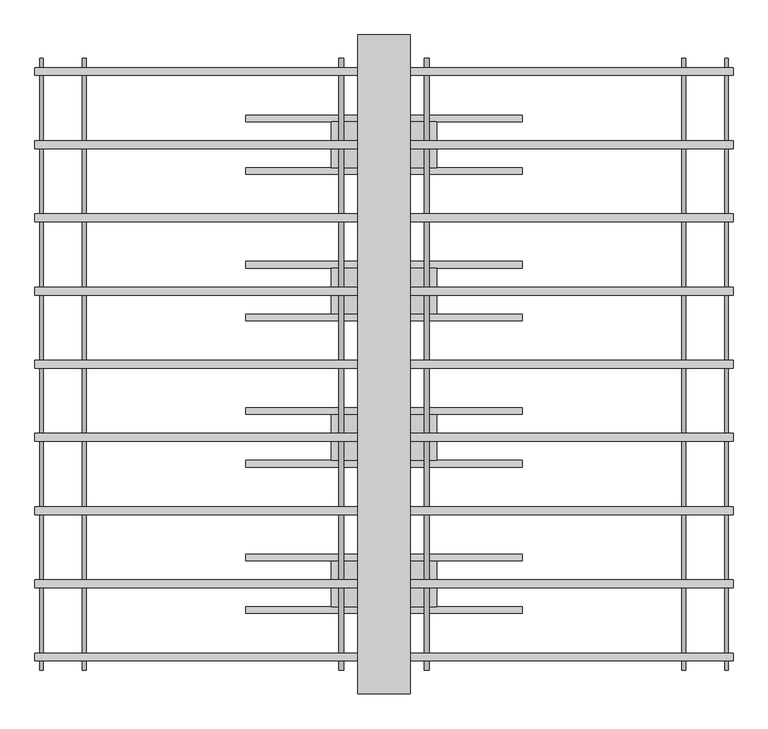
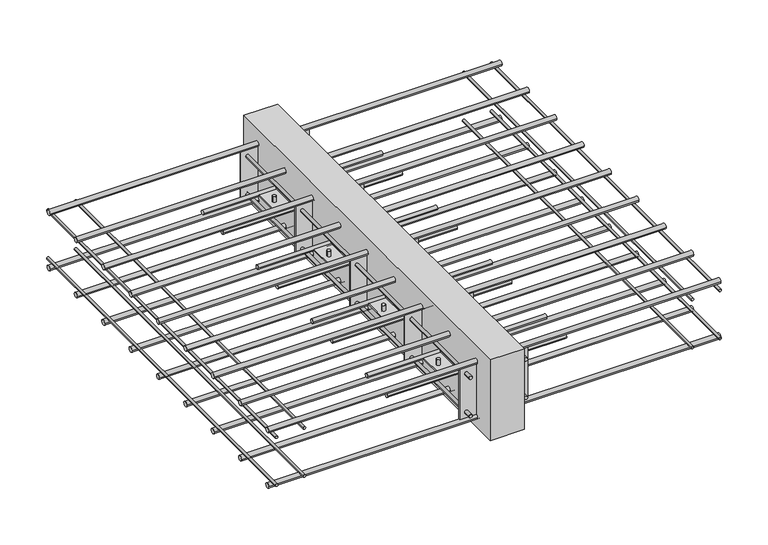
"""IFC4 building model written with IfcOpenShell, lengths in millimetres: proxy geometry, ACINOXplus_Typenreihe_M : MF+ S4."""

from ifc_helpers import new_model, si_unit, point, frame, frame_2d, origin, place, context, project, spatial, polyline, circle_curve, trimmed, segment, composite_curve, outline, extrude, source, transform, mapped, element, save
from ifc_brep_helpers import plane_surface, cylinder_surface, advanced_brep


def generic_models_8bc4e240(model_context):
    return source(origin(), model_context, "Body", "SolidModel", [
        extrude(outline(composite_curve([segment(trimmed(circle_curve(frame_2d((-373.3333333, -104.5)), 5.0), [point((-378.3333333, -104.5))], [point((-368.3333333, -104.5))], False, "CARTESIAN"), True, "CONTINUOUS"), segment(trimmed(circle_curve(frame_2d((-373.3333333, -104.5)), 5.0), [point((-368.3333333, -104.5))], [point((-378.3333333, -104.5))], False, "CARTESIAN"), True, "CONTINUOUS")], self_intersect=False)), frame((-210.0, 0.0, 0.0), z_axis=(1.0, 0.0, 0.0), x_axis=(0.0, 1.0, 0.0)), (0.0, 0.0, 1.0), 420.0),
        extrude(outline(composite_curve([segment(trimmed(circle_curve(frame_2d((-293.3333333, -104.5)), 5.0), [point((-298.3333333, -104.5))], [point((-288.3333333, -104.5))], False, "CARTESIAN"), True, "CONTINUOUS"), segment(trimmed(circle_curve(frame_2d((-293.3333333, -104.5)), 5.0), [point((-288.3333333, -104.5))], [point((-298.3333333, -104.5))], False, "CARTESIAN"), True, "CONTINUOUS")], self_intersect=False)), frame((-210.0, 0.0, 0.0), z_axis=(1.0, 0.0, 0.0), x_axis=(0.0, 1.0, 0.0)), (0.0, 0.0, 1.0), 420.0),
        advanced_brep(
        [(-69.0, -333.3333333, -89.5), (-61.0, -333.3333333, -89.5), (61.0, -333.3333333, -89.5), (69.0, -333.3333333, -89.5), (-69.0, -333.3333333, -119.5), (-61.0, -333.3333333, -119.5), (61.0, -333.3333333, -119.5), (69.0, -333.3333333, -119.5), (-69.0, -333.3333333, -103.0), (-61.0, -333.3333333, -103.0), (-61.0, -333.3333333, -106.0), (-69.0, -333.3333333, -106.0), (61.0, -333.3333333, -103.0), (69.0, -333.3333333, -103.0), (69.0, -333.3333333, -106.0), (61.0, -333.3333333, -106.0), (80.0, -298.3333333, -103.0), (-80.0, -298.3333333, -103.0), (-80.0, -368.3333333, -103.0), (80.0, -368.3333333, -103.0), (80.0, -298.3333333, -106.0), (80.0, -368.3333333, -106.0), (-80.0, -368.3333333, -106.0), (-80.0, -298.3333333, -106.0)],
        [
            (0, 1, circle_curve(frame((-65.0, -333.3333333, -89.5), z_axis=(0.0, 0.0, 1.0), x_axis=(1.0, 0.0, 0.0)), 4.0)),
            (1, 0, circle_curve(frame((-65.0, -333.3333333, -89.5), z_axis=(0.0, 0.0, 1.0), x_axis=(1.0, 0.0, 0.0)), 4.0)),
            (2, 3, circle_curve(frame((65.0, -333.3333333, -89.5), z_axis=(0.0, 0.0, 1.0), x_axis=(1.0, 0.0, 0.0)), 4.0)),
            (3, 2, circle_curve(frame((65.0, -333.3333333, -89.5), z_axis=(0.0, 0.0, 1.0), x_axis=(1.0, 0.0, 0.0)), 4.0)),
            (4, 5, circle_curve(frame((-65.0, -333.3333333, -119.5), z_axis=(0.0, 0.0, -1.0), x_axis=(1.0, 0.0, 0.0)), 4.0)),
            (5, 4, circle_curve(frame((-65.0, -333.3333333, -119.5), z_axis=(0.0, 0.0, -1.0), x_axis=(1.0, 0.0, 0.0)), 4.0)),
            (6, 7, circle_curve(frame((65.0, -333.3333333, -119.5), z_axis=(0.0, 0.0, -1.0), x_axis=(1.0, 0.0, 0.0)), 4.0)),
            (7, 6, circle_curve(frame((65.0, -333.3333333, -119.5), z_axis=(0.0, 0.0, -1.0), x_axis=(1.0, 0.0, 0.0)), 4.0)),
            (0, 8),
            (8, 9, circle_curve(frame((-65.0, -333.3333333, -103.0), z_axis=(0.0, 0.0, 1.0), x_axis=(1.0, 0.0, 0.0)), 4.0)),
            (9, 1),
            (5, 10),
            (10, 11, circle_curve(frame((-65.0, -333.3333333, -106.0), z_axis=(0.0, 0.0, -1.0), x_axis=(1.0, 0.0, 0.0)), 4.0)),
            (11, 4),
            (9, 8, circle_curve(frame((-65.0, -333.3333333, -103.0), z_axis=(0.0, 0.0, 1.0), x_axis=(1.0, 0.0, 0.0)), 4.0)),
            (11, 10, circle_curve(frame((-65.0, -333.3333333, -106.0), z_axis=(0.0, 0.0, -1.0), x_axis=(1.0, 0.0, 0.0)), 4.0)),
            (2, 12),
            (12, 13, circle_curve(frame((65.0, -333.3333333, -103.0), z_axis=(0.0, 0.0, 1.0), x_axis=(1.0, 0.0, 0.0)), 4.0)),
            (13, 3),
            (7, 14),
            (14, 15, circle_curve(frame((65.0, -333.3333333, -106.0), z_axis=(0.0, 0.0, -1.0), x_axis=(1.0, 0.0, 0.0)), 4.0)),
            (15, 6),
            (13, 12, circle_curve(frame((65.0, -333.3333333, -103.0), z_axis=(0.0, 0.0, 1.0), x_axis=(1.0, 0.0, 0.0)), 4.0)),
            (15, 14, circle_curve(frame((65.0, -333.3333333, -106.0), z_axis=(0.0, 0.0, -1.0), x_axis=(1.0, 0.0, 0.0)), 4.0)),
            (16, 17),
            (17, 18),
            (18, 19),
            (19, 16),
            (20, 21),
            (21, 22),
            (22, 23),
            (23, 20),
            (16, 20),
            (23, 17),
            (22, 18),
            (21, 19),
        ],
        [
            plane_surface(frame((-61.0, -333.3333333, -89.5), z_axis=(0.0, 0.0, 1.0), x_axis=(0.0, 1.0, 0.0))),
            plane_surface(frame((-61.0, -333.3333333, -119.5), z_axis=(0.0, 0.0, -1.0), x_axis=(0.0, -1.0, 0.0))),
            cylinder_surface(frame((-65.0, -333.3333333, -119.5), z_axis=(0.0, 0.0, 1.0), x_axis=(1.0, 0.0, 0.0)), 4.0),
            cylinder_surface(frame((65.0, -333.3333333, -104.5), z_axis=(0.0, 0.0, 1.0), x_axis=(1.0, 0.0, 0.0)), 4.0),
            plane_surface(frame((-80.0, -298.3333333, -103.0), z_axis=(0.0, 0.0, 1.0), x_axis=(-1.0, 0.0, 0.0))),
            plane_surface(frame((-80.0, -298.3333333, -106.0), z_axis=(0.0, 0.0, -1.0), x_axis=(1.0, 0.0, 0.0))),
            plane_surface(frame((80.0, -298.3333333, -103.0), z_axis=(0.0, 1.0, 0.0), x_axis=(0.0, 0.0, -1.0))),
            plane_surface(frame((-80.0, -298.3333333, -103.0), z_axis=(-1.0, 0.0, 0.0), x_axis=(0.0, 0.0, -1.0))),
            plane_surface(frame((-80.0, -368.3333333, -103.0), z_axis=(0.0, -1.0, 0.0), x_axis=(0.0, 0.0, -1.0))),
            plane_surface(frame((80.0, -368.3333333, -103.0), z_axis=(1.0, 0.0, 0.0), x_axis=(0.0, 0.0, -1.0))),
        ],
        [
            (0, [[1, 2]]),
            (0, [[3, 4]]),
            (1, [[5, 6]]),
            (1, [[7, 8]]),
            (2, [[-1, 9, 10, 11]]),
            (2, [[-6, 12, 13, 14]]),
            (2, [[-2, -11, 15, -9]]),
            (2, [[-5, -14, 16, -12]]),
            (3, [[-3, 17, 18, 19]]),
            (3, [[-8, 20, 21, 22]]),
            (3, [[-4, -19, 23, -17]]),
            (3, [[-7, -22, 24, -20]]),
            (4, [[25, 26, 27, 28], [-10, -15], [-18, -23]]),
            (5, [[29, 30, 31, 32], [-13, -16], [-21, -24]]),
            (6, [[-25, 33, -32, 34]]),
            (7, [[-26, -34, -31, 35]]),
            (8, [[-27, -35, -30, 36]]),
            (9, [[-28, -36, -29, -33]]),
        ],
    ),
        extrude(outline(composite_curve([segment(trimmed(circle_curve(frame_2d((293.3333333, -104.5)), 5.0), [point((288.3333333, -104.5))], [point((298.3333333, -104.5))], False, "CARTESIAN"), True, "CONTINUOUS"), segment(trimmed(circle_curve(frame_2d((293.3333333, -104.5)), 5.0), [point((298.3333333, -104.5))], [point((288.3333333, -104.5))], False, "CARTESIAN"), True, "CONTINUOUS")], self_intersect=False)), frame((-210.0, 0.0, 0.0), z_axis=(1.0, 0.0, 0.0), x_axis=(0.0, 1.0, 0.0)), (0.0, 0.0, 1.0), 420.0),
        extrude(outline(composite_curve([segment(trimmed(circle_curve(frame_2d((373.3333333, -104.5)), 5.0), [point((368.3333333, -104.5))], [point((378.3333333, -104.5))], False, "CARTESIAN"), True, "CONTINUOUS"), segment(trimmed(circle_curve(frame_2d((373.3333333, -104.5)), 5.0), [point((378.3333333, -104.5))], [point((368.3333333, -104.5))], False, "CARTESIAN"), True, "CONTINUOUS")], self_intersect=False)), frame((-210.0, 0.0, 0.0), z_axis=(1.0, 0.0, 0.0), x_axis=(0.0, 1.0, 0.0)), (0.0, 0.0, 1.0), 420.0),
        advanced_brep(
        [(-69.0, 333.3333333, -89.5), (-61.0, 333.3333333, -89.5), (61.0, 333.3333333, -89.5), (69.0, 333.3333333, -89.5), (-69.0, 333.3333333, -119.5), (-61.0, 333.3333333, -119.5), (61.0, 333.3333333, -119.5), (69.0, 333.3333333, -119.5), (-69.0, 333.3333333, -103.0), (-61.0, 333.3333333, -103.0), (-61.0, 333.3333333, -106.0), (-69.0, 333.3333333, -106.0), (61.0, 333.3333333, -103.0), (69.0, 333.3333333, -103.0), (69.0, 333.3333333, -106.0), (61.0, 333.3333333, -106.0), (80.0, 368.3333333, -103.0), (-80.0, 368.3333333, -103.0), (-80.0, 298.3333333, -103.0), (80.0, 298.3333333, -103.0), (80.0, 368.3333333, -106.0), (80.0, 298.3333333, -106.0), (-80.0, 298.3333333, -106.0), (-80.0, 368.3333333, -106.0)],
        [
            (0, 1, circle_curve(frame((-65.0, 333.3333333, -89.5), z_axis=(0.0, 0.0, 1.0), x_axis=(1.0, 0.0, 0.0)), 4.0)),
            (1, 0, circle_curve(frame((-65.0, 333.3333333, -89.5), z_axis=(0.0, 0.0, 1.0), x_axis=(1.0, 0.0, 0.0)), 4.0)),
            (2, 3, circle_curve(frame((65.0, 333.3333333, -89.5), z_axis=(0.0, 0.0, 1.0), x_axis=(1.0, 0.0, 0.0)), 4.0)),
            (3, 2, circle_curve(frame((65.0, 333.3333333, -89.5), z_axis=(0.0, 0.0, 1.0), x_axis=(1.0, 0.0, 0.0)), 4.0)),
            (4, 5, circle_curve(frame((-65.0, 333.3333333, -119.5), z_axis=(0.0, 0.0, -1.0), x_axis=(1.0, 0.0, 0.0)), 4.0)),
            (5, 4, circle_curve(frame((-65.0, 333.3333333, -119.5), z_axis=(0.0, 0.0, -1.0), x_axis=(1.0, 0.0, 0.0)), 4.0)),
            (6, 7, circle_curve(frame((65.0, 333.3333333, -119.5), z_axis=(0.0, 0.0, -1.0), x_axis=(1.0, 0.0, 0.0)), 4.0)),
            (7, 6, circle_curve(frame((65.0, 333.3333333, -119.5), z_axis=(0.0, 0.0, -1.0), x_axis=(1.0, 0.0, 0.0)), 4.0)),
            (0, 8),
            (8, 9, circle_curve(frame((-65.0, 333.3333333, -103.0), z_axis=(0.0, 0.0, 1.0), x_axis=(1.0, 0.0, 0.0)), 4.0)),
            (9, 1),
            (5, 10),
            (10, 11, circle_curve(frame((-65.0, 333.3333333, -106.0), z_axis=(0.0, 0.0, -1.0), x_axis=(1.0, 0.0, 0.0)), 4.0)),
            (11, 4),
            (9, 8, circle_curve(frame((-65.0, 333.3333333, -103.0), z_axis=(0.0, 0.0, 1.0), x_axis=(1.0, 0.0, 0.0)), 4.0)),
            (11, 10, circle_curve(frame((-65.0, 333.3333333, -106.0), z_axis=(0.0, 0.0, -1.0), x_axis=(1.0, 0.0, 0.0)), 4.0)),
            (2, 12),
            (12, 13, circle_curve(frame((65.0, 333.3333333, -103.0), z_axis=(0.0, 0.0, 1.0), x_axis=(1.0, 0.0, 0.0)), 4.0)),
            (13, 3),
            (7, 14),
            (14, 15, circle_curve(frame((65.0, 333.3333333, -106.0), z_axis=(0.0, 0.0, -1.0), x_axis=(1.0, 0.0, 0.0)), 4.0)),
            (15, 6),
            (13, 12, circle_curve(frame((65.0, 333.3333333, -103.0), z_axis=(0.0, 0.0, 1.0), x_axis=(1.0, 0.0, 0.0)), 4.0)),
            (15, 14, circle_curve(frame((65.0, 333.3333333, -106.0), z_axis=(0.0, 0.0, -1.0), x_axis=(1.0, 0.0, 0.0)), 4.0)),
            (16, 17),
            (17, 18),
            (18, 19),
            (19, 16),
            (20, 21),
            (21, 22),
            (22, 23),
            (23, 20),
            (16, 20),
            (23, 17),
            (22, 18),
            (21, 19),
        ],
        [
            plane_surface(frame((-61.0, 333.3333333, -89.5), z_axis=(0.0, 0.0, 1.0), x_axis=(0.0, 1.0, 0.0))),
            plane_surface(frame((-61.0, 333.3333333, -119.5), z_axis=(0.0, 0.0, -1.0), x_axis=(0.0, -1.0, 0.0))),
            cylinder_surface(frame((-65.0, 333.3333333, -119.5), z_axis=(0.0, 0.0, 1.0), x_axis=(1.0, 0.0, 0.0)), 4.0),
            cylinder_surface(frame((65.0, 333.3333333, -104.5), z_axis=(0.0, 0.0, 1.0), x_axis=(1.0, 0.0, 0.0)), 4.0),
            plane_surface(frame((-80.0, 368.3333333, -103.0), z_axis=(0.0, 0.0, 1.0), x_axis=(-1.0, 0.0, 0.0))),
            plane_surface(frame((-80.0, 368.3333333, -106.0), z_axis=(0.0, 0.0, -1.0), x_axis=(1.0, 0.0, 0.0))),
            plane_surface(frame((80.0, 368.3333333, -103.0), z_axis=(0.0, 1.0, 0.0), x_axis=(0.0, 0.0, -1.0))),
            plane_surface(frame((-80.0, 368.3333333, -103.0), z_axis=(-1.0, 0.0, 0.0), x_axis=(0.0, 0.0, -1.0))),
            plane_surface(frame((-80.0, 298.3333333, -103.0), z_axis=(0.0, -1.0, 0.0), x_axis=(0.0, 0.0, -1.0))),
            plane_surface(frame((80.0, 298.3333333, -103.0), z_axis=(1.0, 0.0, 0.0), x_axis=(0.0, 0.0, -1.0))),
        ],
        [
            (0, [[1, 2]]),
            (0, [[3, 4]]),
            (1, [[5, 6]]),
            (1, [[7, 8]]),
            (2, [[-1, 9, 10, 11]]),
            (2, [[-6, 12, 13, 14]]),
            (2, [[-2, -11, 15, -9]]),
            (2, [[-5, -14, 16, -12]]),
            (3, [[-3, 17, 18, 19]]),
            (3, [[-8, 20, 21, 22]]),
            (3, [[-4, -19, 23, -17]]),
            (3, [[-7, -22, 24, -20]]),
            (4, [[25, 26, 27, 28], [-10, -15], [-18, -23]]),
            (5, [[29, 30, 31, 32], [-13, -16], [-21, -24]]),
            (6, [[-25, 33, -32, 34]]),
            (7, [[-26, -34, -31, 35]]),
            (8, [[-27, -35, -30, 36]]),
            (9, [[-28, -36, -29, -33]]),
        ],
    ),
        extrude(outline(composite_curve([segment(trimmed(circle_curve(frame_2d((-151.1111111, -104.5)), 5.0), [point((-156.1111111, -104.5))], [point((-146.1111111, -104.5))], False, "CARTESIAN"), True, "CONTINUOUS"), segment(trimmed(circle_curve(frame_2d((-151.1111111, -104.5)), 5.0), [point((-146.1111111, -104.5))], [point((-156.1111111, -104.5))], False, "CARTESIAN"), True, "CONTINUOUS")], self_intersect=False)), frame((-210.0, 0.0, 0.0), z_axis=(1.0, 0.0, 0.0), x_axis=(0.0, 1.0, 0.0)), (0.0, 0.0, 1.0), 420.0),
        extrude(outline(composite_curve([segment(trimmed(circle_curve(frame_2d((-71.1111111, -104.5)), 5.0), [point((-76.1111111, -104.5))], [point((-66.1111111, -104.5))], False, "CARTESIAN"), True, "CONTINUOUS"), segment(trimmed(circle_curve(frame_2d((-71.1111111, -104.5)), 5.0), [point((-66.1111111, -104.5))], [point((-76.1111111, -104.5))], False, "CARTESIAN"), True, "CONTINUOUS")], self_intersect=False)), frame((-210.0, 0.0, 0.0), z_axis=(1.0, 0.0, 0.0), x_axis=(0.0, 1.0, 0.0)), (0.0, 0.0, 1.0), 420.0),
        advanced_brep(
        [(-69.0, -111.1111111, -89.5), (-61.0, -111.1111111, -89.5), (61.0, -111.1111111, -89.5), (69.0, -111.1111111, -89.5), (-69.0, -111.1111111, -119.5), (-61.0, -111.1111111, -119.5), (61.0, -111.1111111, -119.5), (69.0, -111.1111111, -119.5), (-69.0, -111.1111111, -103.0), (-61.0, -111.1111111, -103.0), (-61.0, -111.1111111, -106.0), (-69.0, -111.1111111, -106.0), (61.0, -111.1111111, -103.0), (69.0, -111.1111111, -103.0), (69.0, -111.1111111, -106.0), (61.0, -111.1111111, -106.0), (80.0, -76.1111111, -103.0), (-80.0, -76.1111111, -103.0), (-80.0, -146.1111111, -103.0), (80.0, -146.1111111, -103.0), (80.0, -76.1111111, -106.0), (80.0, -146.1111111, -106.0), (-80.0, -146.1111111, -106.0), (-80.0, -76.1111111, -106.0)],
        [
            (0, 1, circle_curve(frame((-65.0, -111.1111111, -89.5), z_axis=(0.0, 0.0, 1.0), x_axis=(1.0, 0.0, 0.0)), 4.0)),
            (1, 0, circle_curve(frame((-65.0, -111.1111111, -89.5), z_axis=(0.0, 0.0, 1.0), x_axis=(1.0, 0.0, 0.0)), 4.0)),
            (2, 3, circle_curve(frame((65.0, -111.1111111, -89.5), z_axis=(0.0, 0.0, 1.0), x_axis=(1.0, 0.0, 0.0)), 4.0)),
            (3, 2, circle_curve(frame((65.0, -111.1111111, -89.5), z_axis=(0.0, 0.0, 1.0), x_axis=(1.0, 0.0, 0.0)), 4.0)),
            (4, 5, circle_curve(frame((-65.0, -111.1111111, -119.5), z_axis=(0.0, 0.0, -1.0), x_axis=(1.0, 0.0, 0.0)), 4.0)),
            (5, 4, circle_curve(frame((-65.0, -111.1111111, -119.5), z_axis=(0.0, 0.0, -1.0), x_axis=(1.0, 0.0, 0.0)), 4.0)),
            (6, 7, circle_curve(frame((65.0, -111.1111111, -119.5), z_axis=(0.0, 0.0, -1.0), x_axis=(1.0, 0.0, 0.0)), 4.0)),
            (7, 6, circle_curve(frame((65.0, -111.1111111, -119.5), z_axis=(0.0, 0.0, -1.0), x_axis=(1.0, 0.0, 0.0)), 4.0)),
            (0, 8),
            (8, 9, circle_curve(frame((-65.0, -111.1111111, -103.0), z_axis=(0.0, 0.0, 1.0), x_axis=(1.0, 0.0, 0.0)), 4.0)),
            (9, 1),
            (5, 10),
            (10, 11, circle_curve(frame((-65.0, -111.1111111, -106.0), z_axis=(0.0, 0.0, -1.0), x_axis=(1.0, 0.0, 0.0)), 4.0)),
            (11, 4),
            (9, 8, circle_curve(frame((-65.0, -111.1111111, -103.0), z_axis=(0.0, 0.0, 1.0), x_axis=(1.0, 0.0, 0.0)), 4.0)),
            (11, 10, circle_curve(frame((-65.0, -111.1111111, -106.0), z_axis=(0.0, 0.0, -1.0), x_axis=(1.0, 0.0, 0.0)), 4.0)),
            (2, 12),
            (12, 13, circle_curve(frame((65.0, -111.1111111, -103.0), z_axis=(0.0, 0.0, 1.0), x_axis=(1.0, 0.0, 0.0)), 4.0)),
            (13, 3),
            (7, 14),
            (14, 15, circle_curve(frame((65.0, -111.1111111, -106.0), z_axis=(0.0, 0.0, -1.0), x_axis=(1.0, 0.0, 0.0)), 4.0)),
            (15, 6),
            (13, 12, circle_curve(frame((65.0, -111.1111111, -103.0), z_axis=(0.0, 0.0, 1.0), x_axis=(1.0, 0.0, 0.0)), 4.0)),
            (15, 14, circle_curve(frame((65.0, -111.1111111, -106.0), z_axis=(0.0, 0.0, -1.0), x_axis=(1.0, 0.0, 0.0)), 4.0)),
            (16, 17),
            (17, 18),
            (18, 19),
            (19, 16),
            (20, 21),
            (21, 22),
            (22, 23),
            (23, 20),
            (16, 20),
            (23, 17),
            (22, 18),
            (21, 19),
        ],
        [
            plane_surface(frame((-61.0, -111.1111111, -89.5), z_axis=(0.0, 0.0, 1.0), x_axis=(0.0, 1.0, 0.0))),
            plane_surface(frame((-61.0, -111.1111111, -119.5), z_axis=(0.0, 0.0, -1.0), x_axis=(0.0, -1.0, 0.0))),
            cylinder_surface(frame((-65.0, -111.1111111, -119.5), z_axis=(0.0, 0.0, 1.0), x_axis=(1.0, 0.0, 0.0)), 4.0),
            cylinder_surface(frame((65.0, -111.1111111, -104.5), z_axis=(0.0, 0.0, 1.0), x_axis=(1.0, 0.0, 0.0)), 4.0),
            plane_surface(frame((-80.0, -76.1111111, -103.0), z_axis=(0.0, 0.0, 1.0), x_axis=(-1.0, 0.0, 0.0))),
            plane_surface(frame((-80.0, -76.1111111, -106.0), z_axis=(0.0, 0.0, -1.0), x_axis=(1.0, 0.0, 0.0))),
            plane_surface(frame((80.0, -76.1111111, -103.0), z_axis=(0.0, 1.0, 0.0), x_axis=(0.0, 0.0, -1.0))),
            plane_surface(frame((-80.0, -76.1111111, -103.0), z_axis=(-1.0, 0.0, 0.0), x_axis=(0.0, 0.0, -1.0))),
            plane_surface(frame((-80.0, -146.1111111, -103.0), z_axis=(0.0, -1.0, 0.0), x_axis=(0.0, 0.0, -1.0))),
            plane_surface(frame((80.0, -146.1111111, -103.0), z_axis=(1.0, 0.0, 0.0), x_axis=(0.0, 0.0, -1.0))),
        ],
        [
            (0, [[1, 2]]),
            (0, [[3, 4]]),
            (1, [[5, 6]]),
            (1, [[7, 8]]),
            (2, [[-1, 9, 10, 11]]),
            (2, [[-6, 12, 13, 14]]),
            (2, [[-2, -11, 15, -9]]),
            (2, [[-5, -14, 16, -12]]),
            (3, [[-3, 17, 18, 19]]),
            (3, [[-8, 20, 21, 22]]),
            (3, [[-4, -19, 23, -17]]),
            (3, [[-7, -22, 24, -20]]),
            (4, [[25, 26, 27, 28], [-10, -15], [-18, -23]]),
            (5, [[29, 30, 31, 32], [-13, -16], [-21, -24]]),
            (6, [[-25, 33, -32, 34]]),
            (7, [[-26, -34, -31, 35]]),
            (8, [[-27, -35, -30, 36]]),
            (9, [[-28, -36, -29, -33]]),
        ],
    ),
        extrude(outline(composite_curve([segment(trimmed(circle_curve(frame_2d((71.1111111, -104.5)), 5.0), [point((66.1111111, -104.5))], [point((76.1111111, -104.5))], False, "CARTESIAN"), True, "CONTINUOUS"), segment(trimmed(circle_curve(frame_2d((71.1111111, -104.5)), 5.0), [point((76.1111111, -104.5))], [point((66.1111111, -104.5))], False, "CARTESIAN"), True, "CONTINUOUS")], self_intersect=False)), frame((-210.0, 0.0, 0.0), z_axis=(1.0, 0.0, 0.0), x_axis=(0.0, 1.0, 0.0)), (0.0, 0.0, 1.0), 420.0),
        extrude(outline(composite_curve([segment(trimmed(circle_curve(frame_2d((151.1111111, -104.5)), 5.0), [point((146.1111111, -104.5))], [point((156.1111111, -104.5))], False, "CARTESIAN"), True, "CONTINUOUS"), segment(trimmed(circle_curve(frame_2d((151.1111111, -104.5)), 5.0), [point((156.1111111, -104.5))], [point((146.1111111, -104.5))], False, "CARTESIAN"), True, "CONTINUOUS")], self_intersect=False)), frame((-210.0, 0.0, 0.0), z_axis=(1.0, 0.0, 0.0), x_axis=(0.0, 1.0, 0.0)), (0.0, 0.0, 1.0), 420.0),
        advanced_brep(
        [(-69.0, 111.1111111, -89.5), (-61.0, 111.1111111, -89.5), (61.0, 111.1111111, -89.5), (69.0, 111.1111111, -89.5), (-69.0, 111.1111111, -119.5), (-61.0, 111.1111111, -119.5), (61.0, 111.1111111, -119.5), (69.0, 111.1111111, -119.5), (-69.0, 111.1111111, -103.0), (-61.0, 111.1111111, -103.0), (-61.0, 111.1111111, -106.0), (-69.0, 111.1111111, -106.0), (61.0, 111.1111111, -103.0), (69.0, 111.1111111, -103.0), (69.0, 111.1111111, -106.0), (61.0, 111.1111111, -106.0), (80.0, 146.1111111, -103.0), (-80.0, 146.1111111, -103.0), (-80.0, 76.1111111, -103.0), (80.0, 76.1111111, -103.0), (80.0, 146.1111111, -106.0), (80.0, 76.1111111, -106.0), (-80.0, 76.1111111, -106.0), (-80.0, 146.1111111, -106.0)],
        [
            (0, 1, circle_curve(frame((-65.0, 111.1111111, -89.5), z_axis=(0.0, 0.0, 1.0), x_axis=(1.0, 0.0, 0.0)), 4.0)),
            (1, 0, circle_curve(frame((-65.0, 111.1111111, -89.5), z_axis=(0.0, 0.0, 1.0), x_axis=(1.0, 0.0, 0.0)), 4.0)),
            (2, 3, circle_curve(frame((65.0, 111.1111111, -89.5), z_axis=(0.0, 0.0, 1.0), x_axis=(1.0, 0.0, 0.0)), 4.0)),
            (3, 2, circle_curve(frame((65.0, 111.1111111, -89.5), z_axis=(0.0, 0.0, 1.0), x_axis=(1.0, 0.0, 0.0)), 4.0)),
            (4, 5, circle_curve(frame((-65.0, 111.1111111, -119.5), z_axis=(0.0, 0.0, -1.0), x_axis=(1.0, 0.0, 0.0)), 4.0)),
            (5, 4, circle_curve(frame((-65.0, 111.1111111, -119.5), z_axis=(0.0, 0.0, -1.0), x_axis=(1.0, 0.0, 0.0)), 4.0)),
            (6, 7, circle_curve(frame((65.0, 111.1111111, -119.5), z_axis=(0.0, 0.0, -1.0), x_axis=(1.0, 0.0, 0.0)), 4.0)),
            (7, 6, circle_curve(frame((65.0, 111.1111111, -119.5), z_axis=(0.0, 0.0, -1.0), x_axis=(1.0, 0.0, 0.0)), 4.0)),
            (0, 8),
            (8, 9, circle_curve(frame((-65.0, 111.1111111, -103.0), z_axis=(0.0, 0.0, 1.0), x_axis=(1.0, 0.0, 0.0)), 4.0)),
            (9, 1),
            (5, 10),
            (10, 11, circle_curve(frame((-65.0, 111.1111111, -106.0), z_axis=(0.0, 0.0, -1.0), x_axis=(1.0, 0.0, 0.0)), 4.0)),
            (11, 4),
            (9, 8, circle_curve(frame((-65.0, 111.1111111, -103.0), z_axis=(0.0, 0.0, 1.0), x_axis=(1.0, 0.0, 0.0)), 4.0)),
            (11, 10, circle_curve(frame((-65.0, 111.1111111, -106.0), z_axis=(0.0, 0.0, -1.0), x_axis=(1.0, 0.0, 0.0)), 4.0)),
            (2, 12),
            (12, 13, circle_curve(frame((65.0, 111.1111111, -103.0), z_axis=(0.0, 0.0, 1.0), x_axis=(1.0, 0.0, 0.0)), 4.0)),
            (13, 3),
            (7, 14),
            (14, 15, circle_curve(frame((65.0, 111.1111111, -106.0), z_axis=(0.0, 0.0, -1.0), x_axis=(1.0, 0.0, 0.0)), 4.0)),
            (15, 6),
            (13, 12, circle_curve(frame((65.0, 111.1111111, -103.0), z_axis=(0.0, 0.0, 1.0), x_axis=(1.0, 0.0, 0.0)), 4.0)),
            (15, 14, circle_curve(frame((65.0, 111.1111111, -106.0), z_axis=(0.0, 0.0, -1.0), x_axis=(1.0, 0.0, 0.0)), 4.0)),
            (16, 17),
            (17, 18),
            (18, 19),
            (19, 16),
            (20, 21),
            (21, 22),
            (22, 23),
            (23, 20),
            (16, 20),
            (23, 17),
            (22, 18),
            (21, 19),
        ],
        [
            plane_surface(frame((-61.0, 111.1111111, -89.5), z_axis=(0.0, 0.0, 1.0), x_axis=(0.0, 1.0, 0.0))),
            plane_surface(frame((-61.0, 111.1111111, -119.5), z_axis=(0.0, 0.0, -1.0), x_axis=(0.0, -1.0, 0.0))),
            cylinder_surface(frame((-65.0, 111.1111111, -119.5), z_axis=(0.0, 0.0, 1.0), x_axis=(1.0, 0.0, 0.0)), 4.0),
            cylinder_surface(frame((65.0, 111.1111111, -104.5), z_axis=(0.0, 0.0, 1.0), x_axis=(1.0, 0.0, 0.0)), 4.0),
            plane_surface(frame((-80.0, 146.1111111, -103.0), z_axis=(0.0, 0.0, 1.0), x_axis=(-1.0, 0.0, 0.0))),
            plane_surface(frame((-80.0, 146.1111111, -106.0), z_axis=(0.0, 0.0, -1.0), x_axis=(1.0, 0.0, 0.0))),
            plane_surface(frame((80.0, 146.1111111, -103.0), z_axis=(0.0, 1.0, 0.0), x_axis=(0.0, 0.0, -1.0))),
            plane_surface(frame((-80.0, 146.1111111, -103.0), z_axis=(-1.0, 0.0, 0.0), x_axis=(0.0, 0.0, -1.0))),
            plane_surface(frame((-80.0, 76.1111111, -103.0), z_axis=(0.0, -1.0, 0.0), x_axis=(0.0, 0.0, -1.0))),
            plane_surface(frame((80.0, 76.1111111, -103.0), z_axis=(1.0, 0.0, 0.0), x_axis=(0.0, 0.0, -1.0))),
        ],
        [
            (0, [[1, 2]]),
            (0, [[3, 4]]),
            (1, [[5, 6]]),
            (1, [[7, 8]]),
            (2, [[-1, 9, 10, 11]]),
            (2, [[-6, 12, 13, 14]]),
            (2, [[-2, -11, 15, -9]]),
            (2, [[-5, -14, 16, -12]]),
            (3, [[-3, 17, 18, 19]]),
            (3, [[-8, 20, 21, 22]]),
            (3, [[-4, -19, 23, -17]]),
            (3, [[-7, -22, 24, -20]]),
            (4, [[25, 26, 27, 28], [-10, -15], [-18, -23]]),
            (5, [[29, 30, 31, 32], [-13, -16], [-21, -24]]),
            (6, [[-25, 33, -32, 34]]),
            (7, [[-26, -34, -31, 35]]),
            (8, [[-27, -35, -30, 36]]),
            (9, [[-28, -36, -29, -33]]),
        ],
    ),
        extrude(outline(polyline([(40.0, 500.0), (40.0, -500.0), (-40.0, -500.0), (-40.0, 500.0), (40.0, 500.0)])), frame((0.0, 0.0, -200.0), z_axis=(0.0, 0.0, 1.0), x_axis=(1.0, 0.0, 0.0)), (0.0, 0.0, 1.0), 200.0),
        extrude(outline(polyline([(80.0, -220.7222222), (80.0, -223.7222222), (-80.0, -223.7222222), (-80.0, -220.7222222), (80.0, -220.7222222)])), frame((0.0, 0.0, -167.0), z_axis=(0.0, 0.0, 1.0), x_axis=(1.0, 0.0, 0.0)), (0.0, 0.0, 1.0), 125.0),
        extrude(outline(polyline([(80.0, 1.5), (80.0, -1.5), (-80.0, -1.5), (-80.0, 1.5), (80.0, 1.5)])), frame((0.0, 0.0, -167.0), z_axis=(0.0, 0.0, 1.0), x_axis=(1.0, 0.0, 0.0)), (0.0, 0.0, 1.0), 125.0),
        extrude(outline(polyline([(80.0, 223.7222222), (80.0, 220.7222222), (-80.0, 220.7222222), (-80.0, 223.7222222), (80.0, 223.7222222)])), frame((0.0, 0.0, -167.0), z_axis=(0.0, 0.0, 1.0), x_axis=(1.0, 0.0, 0.0)), (0.0, 0.0, 1.0), 125.0),
        extrude(outline(polyline([(80.0, -442.9444444), (80.0, -445.9444444), (-80.0, -445.9444444), (-80.0, -442.9444444), (80.0, -442.9444444)])), frame((0.0, 0.0, -167.0), z_axis=(0.0, 0.0, 1.0), x_axis=(1.0, 0.0, 0.0)), (0.0, 0.0, 1.0), 125.0),
        extrude(outline(polyline([(80.0, 445.9444444), (80.0, 442.9444444), (-80.0, 442.9444444), (-80.0, 445.9444444), (80.0, 445.9444444)])), frame((0.0, 0.0, -167.0), z_axis=(0.0, 0.0, 1.0), x_axis=(1.0, 0.0, 0.0)), (0.0, 0.0, 1.0), 125.0),
        extrude(outline(composite_curve([segment(trimmed(circle_curve(frame_2d((-152.0, -65.0)), 4.0), [point((-152.0, -61.0))], [point((-152.0, -69.0))], False, "CARTESIAN"), True, "CONTINUOUS"), segment(trimmed(circle_curve(frame_2d((-152.0, -65.0)), 4.0), [point((-152.0, -69.0))], [point((-152.0, -61.0))], False, "CARTESIAN"), True, "CONTINUOUS")], self_intersect=False)), frame((0.0, -464.4444444, 0.0), z_axis=(0.0, 1.0, 0.0), x_axis=(0.0, 0.0, 1.0)), (0.0, 0.0, 1.0), 18.5),
        extrude(outline(composite_curve([segment(trimmed(circle_curve(frame_2d((-152.0, -65.0)), 4.0), [point((-152.0, -69.0))], [point((-152.0, -61.0))], False, "CARTESIAN"), True, "CONTINUOUS"), segment(trimmed(circle_curve(frame_2d((-152.0, -65.0)), 4.0), [point((-152.0, -61.0))], [point((-152.0, -69.0))], False, "CARTESIAN"), True, "CONTINUOUS")], self_intersect=False)), frame((0.0, -442.9444444, 0.0), z_axis=(0.0, 1.0, 0.0), x_axis=(0.0, 0.0, 1.0)), (0.0, 0.0, 1.0), 663.6666667),
        extrude(outline(composite_curve([segment(trimmed(circle_curve(frame_2d((-152.0, -65.0)), 4.0), [point((-152.0, -69.0))], [point((-152.0, -61.0))], False, "CARTESIAN"), True, "CONTINUOUS"), segment(trimmed(circle_curve(frame_2d((-152.0, -65.0)), 4.0), [point((-152.0, -61.0))], [point((-152.0, -69.0))], False, "CARTESIAN"), True, "CONTINUOUS")], self_intersect=False)), frame((0.0, 445.9444444, 0.0), z_axis=(0.0, 1.0, 0.0), x_axis=(0.0, 0.0, 1.0)), (0.0, 0.0, 1.0), 18.5),
        extrude(outline(composite_curve([segment(trimmed(circle_curve(frame_2d((-152.0, -65.0)), 4.0), [point((-152.0, -69.0))], [point((-152.0, -61.0))], False, "CARTESIAN"), True, "CONTINUOUS"), segment(trimmed(circle_curve(frame_2d((-152.0, -65.0)), 4.0), [point((-152.0, -61.0))], [point((-152.0, -69.0))], False, "CARTESIAN"), True, "CONTINUOUS")], self_intersect=False)), frame((0.0, 223.7222222, 0.0), z_axis=(0.0, 1.0, 0.0), x_axis=(0.0, 0.0, 1.0)), (0.0, 0.0, 1.0), 219.2222222),
        extrude(outline(composite_curve([segment(trimmed(circle_curve(frame_2d((-152.0, 65.0)), 4.0), [point((-152.0, 69.0))], [point((-152.0, 61.0))], False, "CARTESIAN"), True, "CONTINUOUS"), segment(trimmed(circle_curve(frame_2d((-152.0, 65.0)), 4.0), [point((-152.0, 61.0))], [point((-152.0, 69.0))], False, "CARTESIAN"), True, "CONTINUOUS")], self_intersect=False)), frame((0.0, -464.4444444, 0.0), z_axis=(0.0, 1.0, 0.0), x_axis=(0.0, 0.0, 1.0)), (0.0, 0.0, 1.0), 18.5),
        extrude(outline(composite_curve([segment(trimmed(circle_curve(frame_2d((-152.0, 65.0)), 4.0), [point((-152.0, 61.0))], [point((-152.0, 69.0))], False, "CARTESIAN"), True, "CONTINUOUS"), segment(trimmed(circle_curve(frame_2d((-152.0, 65.0)), 4.0), [point((-152.0, 69.0))], [point((-152.0, 61.0))], False, "CARTESIAN"), True, "CONTINUOUS")], self_intersect=False)), frame((0.0, -442.9444444, 0.0), z_axis=(0.0, 1.0, 0.0), x_axis=(0.0, 0.0, 1.0)), (0.0, 0.0, 1.0), 663.6666667),
        extrude(outline(composite_curve([segment(trimmed(circle_curve(frame_2d((-152.0, 65.0)), 4.0), [point((-152.0, 61.0))], [point((-152.0, 69.0))], False, "CARTESIAN"), True, "CONTINUOUS"), segment(trimmed(circle_curve(frame_2d((-152.0, 65.0)), 4.0), [point((-152.0, 69.0))], [point((-152.0, 61.0))], False, "CARTESIAN"), True, "CONTINUOUS")], self_intersect=False)), frame((0.0, 445.9444444, 0.0), z_axis=(0.0, 1.0, 0.0), x_axis=(0.0, 0.0, 1.0)), (0.0, 0.0, 1.0), 18.5),
        extrude(outline(composite_curve([segment(trimmed(circle_curve(frame_2d((-152.0, 65.0)), 4.0), [point((-152.0, 61.0))], [point((-152.0, 69.0))], False, "CARTESIAN"), True, "CONTINUOUS"), segment(trimmed(circle_curve(frame_2d((-152.0, 65.0)), 4.0), [point((-152.0, 69.0))], [point((-152.0, 61.0))], False, "CARTESIAN"), True, "CONTINUOUS")], self_intersect=False)), frame((0.0, 223.7222222, 0.0), z_axis=(0.0, 1.0, 0.0), x_axis=(0.0, 0.0, 1.0)), (0.0, 0.0, 1.0), 219.2222222),
        extrude(outline(composite_curve([segment(trimmed(circle_curve(frame_2d((-57.0, -65.0)), 4.0), [point((-57.0, -61.0))], [point((-57.0, -69.0))], False, "CARTESIAN"), True, "CONTINUOUS"), segment(trimmed(circle_curve(frame_2d((-57.0, -65.0)), 4.0), [point((-57.0, -69.0))], [point((-57.0, -61.0))], False, "CARTESIAN"), True, "CONTINUOUS")], self_intersect=False)), frame((0.0, -464.4444444, 0.0), z_axis=(0.0, 1.0, 0.0), x_axis=(0.0, 0.0, 1.0)), (0.0, 0.0, 1.0), 18.5),
        extrude(outline(composite_curve([segment(trimmed(circle_curve(frame_2d((-57.0, -65.0)), 4.0), [point((-57.0, -69.0))], [point((-57.0, -61.0))], False, "CARTESIAN"), True, "CONTINUOUS"), segment(trimmed(circle_curve(frame_2d((-57.0, -65.0)), 4.0), [point((-57.0, -61.0))], [point((-57.0, -69.0))], False, "CARTESIAN"), True, "CONTINUOUS")], self_intersect=False)), frame((0.0, -442.9444444, 0.0), z_axis=(0.0, 1.0, 0.0), x_axis=(0.0, 0.0, 1.0)), (0.0, 0.0, 1.0), 663.6666667),
        extrude(outline(composite_curve([segment(trimmed(circle_curve(frame_2d((-57.0, -65.0)), 4.0), [point((-57.0, -69.0))], [point((-57.0, -61.0))], False, "CARTESIAN"), True, "CONTINUOUS"), segment(trimmed(circle_curve(frame_2d((-57.0, -65.0)), 4.0), [point((-57.0, -61.0))], [point((-57.0, -69.0))], False, "CARTESIAN"), True, "CONTINUOUS")], self_intersect=False)), frame((0.0, 445.9444444, 0.0), z_axis=(0.0, 1.0, 0.0), x_axis=(0.0, 0.0, 1.0)), (0.0, 0.0, 1.0), 18.5),
        extrude(outline(composite_curve([segment(trimmed(circle_curve(frame_2d((-57.0, -65.0)), 4.0), [point((-57.0, -69.0))], [point((-57.0, -61.0))], False, "CARTESIAN"), True, "CONTINUOUS"), segment(trimmed(circle_curve(frame_2d((-57.0, -65.0)), 4.0), [point((-57.0, -61.0))], [point((-57.0, -69.0))], False, "CARTESIAN"), True, "CONTINUOUS")], self_intersect=False)), frame((0.0, 223.7222222, 0.0), z_axis=(0.0, 1.0, 0.0), x_axis=(0.0, 0.0, 1.0)), (0.0, 0.0, 1.0), 219.2222222),
        extrude(outline(composite_curve([segment(trimmed(circle_curve(frame_2d((-57.0, 65.0)), 4.0), [point((-57.0, 69.0))], [point((-57.0, 61.0))], False, "CARTESIAN"), True, "CONTINUOUS"), segment(trimmed(circle_curve(frame_2d((-57.0, 65.0)), 4.0), [point((-57.0, 61.0))], [point((-57.0, 69.0))], False, "CARTESIAN"), True, "CONTINUOUS")], self_intersect=False)), frame((0.0, -464.4444444, 0.0), z_axis=(0.0, 1.0, 0.0), x_axis=(0.0, 0.0, 1.0)), (0.0, 0.0, 1.0), 18.5),
        extrude(outline(composite_curve([segment(trimmed(circle_curve(frame_2d((-57.0, 65.0)), 4.0), [point((-57.0, 61.0))], [point((-57.0, 69.0))], False, "CARTESIAN"), True, "CONTINUOUS"), segment(trimmed(circle_curve(frame_2d((-57.0, 65.0)), 4.0), [point((-57.0, 69.0))], [point((-57.0, 61.0))], False, "CARTESIAN"), True, "CONTINUOUS")], self_intersect=False)), frame((0.0, -442.9444444, 0.0), z_axis=(0.0, 1.0, 0.0), x_axis=(0.0, 0.0, 1.0)), (0.0, 0.0, 1.0), 663.6666667),
        extrude(outline(composite_curve([segment(trimmed(circle_curve(frame_2d((-57.0, 65.0)), 4.0), [point((-57.0, 61.0))], [point((-57.0, 69.0))], False, "CARTESIAN"), True, "CONTINUOUS"), segment(trimmed(circle_curve(frame_2d((-57.0, 65.0)), 4.0), [point((-57.0, 69.0))], [point((-57.0, 61.0))], False, "CARTESIAN"), True, "CONTINUOUS")], self_intersect=False)), frame((0.0, 445.9444444, 0.0), z_axis=(0.0, 1.0, 0.0), x_axis=(0.0, 0.0, 1.0)), (0.0, 0.0, 1.0), 18.5),
        extrude(outline(composite_curve([segment(trimmed(circle_curve(frame_2d((-57.0, 65.0)), 4.0), [point((-57.0, 61.0))], [point((-57.0, 69.0))], False, "CARTESIAN"), True, "CONTINUOUS"), segment(trimmed(circle_curve(frame_2d((-57.0, 65.0)), 4.0), [point((-57.0, 69.0))], [point((-57.0, 61.0))], False, "CARTESIAN"), True, "CONTINUOUS")], self_intersect=False)), frame((0.0, 223.7222222, 0.0), z_axis=(0.0, 1.0, 0.0), x_axis=(0.0, 0.0, 1.0)), (0.0, 0.0, 1.0), 219.2222222),
        extrude(outline(composite_curve([segment(trimmed(circle_curve(frame_2d((222.2222222, -173.0)), 6.0), [point((216.2222222, -173.0))], [point((228.2222222, -173.0))], False, "CARTESIAN"), True, "CONTINUOUS"), segment(trimmed(circle_curve(frame_2d((222.2222222, -173.0)), 6.0), [point((228.2222222, -173.0))], [point((216.2222222, -173.0))], False, "CARTESIAN"), True, "CONTINUOUS")], self_intersect=False)), frame((-530.0, 0.0, 0.0), z_axis=(1.0, 0.0, 0.0), x_axis=(0.0, 1.0, 0.0)), (0.0, 0.0, 1.0), 1060.0),
        extrude(outline(composite_curve([segment(trimmed(circle_curve(frame_2d((111.1111111, -173.0)), 6.0), [point((105.1111111, -173.0))], [point((117.1111111, -173.0))], False, "CARTESIAN"), True, "CONTINUOUS"), segment(trimmed(circle_curve(frame_2d((111.1111111, -173.0)), 6.0), [point((117.1111111, -173.0))], [point((105.1111111, -173.0))], False, "CARTESIAN"), True, "CONTINUOUS")], self_intersect=False)), frame((-530.0, 0.0, 0.0), z_axis=(1.0, 0.0, 0.0), x_axis=(0.0, 1.0, 0.0)), (0.0, 0.0, 1.0), 1060.0),
        extrude(outline(composite_curve([segment(trimmed(circle_curve(frame_2d((0.0, -173.0)), 6.0), [point((-6.0, -173.0))], [point((6.0, -173.0))], False, "CARTESIAN"), True, "CONTINUOUS"), segment(trimmed(circle_curve(frame_2d((0.0, -173.0)), 6.0), [point((6.0, -173.0))], [point((-6.0, -173.0))], False, "CARTESIAN"), True, "CONTINUOUS")], self_intersect=False)), frame((-530.0, 0.0, 0.0), z_axis=(1.0, 0.0, 0.0), x_axis=(0.0, 1.0, 0.0)), (0.0, 0.0, 1.0), 1060.0),
        extrude(outline(composite_curve([segment(trimmed(circle_curve(frame_2d((-111.1111111, -173.0)), 6.0), [point((-117.1111111, -173.0))], [point((-105.1111111, -173.0))], False, "CARTESIAN"), True, "CONTINUOUS"), segment(trimmed(circle_curve(frame_2d((-111.1111111, -173.0)), 6.0), [point((-105.1111111, -173.0))], [point((-117.1111111, -173.0))], False, "CARTESIAN"), True, "CONTINUOUS")], self_intersect=False)), frame((-530.0, 0.0, 0.0), z_axis=(1.0, 0.0, 0.0), x_axis=(0.0, 1.0, 0.0)), (0.0, 0.0, 1.0), 1060.0),
        extrude(outline(composite_curve([segment(trimmed(circle_curve(frame_2d((-222.2222222, -173.0)), 6.0), [point((-228.2222222, -173.0))], [point((-216.2222222, -173.0))], False, "CARTESIAN"), True, "CONTINUOUS"), segment(trimmed(circle_curve(frame_2d((-222.2222222, -173.0)), 6.0), [point((-216.2222222, -173.0))], [point((-228.2222222, -173.0))], False, "CARTESIAN"), True, "CONTINUOUS")], self_intersect=False)), frame((-530.0, 0.0, 0.0), z_axis=(1.0, 0.0, 0.0), x_axis=(0.0, 1.0, 0.0)), (0.0, 0.0, 1.0), 1060.0),
        extrude(outline(composite_curve([segment(trimmed(circle_curve(frame_2d((333.3333333, -173.0)), 6.0), [point((327.3333333, -173.0))], [point((339.3333333, -173.0))], False, "CARTESIAN"), True, "CONTINUOUS"), segment(trimmed(circle_curve(frame_2d((333.3333333, -173.0)), 6.0), [point((339.3333333, -173.0))], [point((327.3333333, -173.0))], False, "CARTESIAN"), True, "CONTINUOUS")], self_intersect=False)), frame((-530.0, 0.0, 0.0), z_axis=(1.0, 0.0, 0.0), x_axis=(0.0, 1.0, 0.0)), (0.0, 0.0, 1.0), 1060.0),
        extrude(outline(composite_curve([segment(trimmed(circle_curve(frame_2d((444.4444444, -173.0)), 6.0), [point((438.4444444, -173.0))], [point((450.4444444, -173.0))], False, "CARTESIAN"), True, "CONTINUOUS"), segment(trimmed(circle_curve(frame_2d((444.4444444, -173.0)), 6.0), [point((450.4444444, -173.0))], [point((438.4444444, -173.0))], False, "CARTESIAN"), True, "CONTINUOUS")], self_intersect=False)), frame((-530.0, 0.0, 0.0), z_axis=(1.0, 0.0, 0.0), x_axis=(0.0, 1.0, 0.0)), (0.0, 0.0, 1.0), 1060.0),
        extrude(outline(composite_curve([segment(trimmed(circle_curve(frame_2d((-333.3333333, -173.0)), 6.0), [point((-339.3333333, -173.0))], [point((-327.3333333, -173.0))], False, "CARTESIAN"), True, "CONTINUOUS"), segment(trimmed(circle_curve(frame_2d((-333.3333333, -173.0)), 6.0), [point((-327.3333333, -173.0))], [point((-339.3333333, -173.0))], False, "CARTESIAN"), True, "CONTINUOUS")], self_intersect=False)), frame((-530.0, 0.0, 0.0), z_axis=(1.0, 0.0, 0.0), x_axis=(0.0, 1.0, 0.0)), (0.0, 0.0, 1.0), 1060.0),
        extrude(outline(composite_curve([segment(trimmed(circle_curve(frame_2d((-444.4444444, -173.0)), 6.0), [point((-450.4444444, -173.0))], [point((-438.4444444, -173.0))], False, "CARTESIAN"), True, "CONTINUOUS"), segment(trimmed(circle_curve(frame_2d((-444.4444444, -173.0)), 6.0), [point((-438.4444444, -173.0))], [point((-450.4444444, -173.0))], False, "CARTESIAN"), True, "CONTINUOUS")], self_intersect=False)), frame((-530.0, 0.0, 0.0), z_axis=(1.0, 0.0, 0.0), x_axis=(0.0, 1.0, 0.0)), (0.0, 0.0, 1.0), 1060.0),
        extrude(outline(composite_curve([segment(trimmed(circle_curve(frame_2d((222.2222222, -36.0)), 6.0), [point((216.2222222, -36.0))], [point((228.2222222, -36.0))], False, "CARTESIAN"), True, "CONTINUOUS"), segment(trimmed(circle_curve(frame_2d((222.2222222, -36.0)), 6.0), [point((228.2222222, -36.0))], [point((216.2222222, -36.0))], False, "CARTESIAN"), True, "CONTINUOUS")], self_intersect=False)), frame((-530.0, 0.0, 0.0), z_axis=(1.0, 0.0, 0.0), x_axis=(0.0, 1.0, 0.0)), (0.0, 0.0, 1.0), 1060.0),
        extrude(outline(composite_curve([segment(trimmed(circle_curve(frame_2d((111.1111111, -36.0)), 6.0), [point((105.1111111, -36.0))], [point((117.1111111, -36.0))], False, "CARTESIAN"), True, "CONTINUOUS"), segment(trimmed(circle_curve(frame_2d((111.1111111, -36.0)), 6.0), [point((117.1111111, -36.0))], [point((105.1111111, -36.0))], False, "CARTESIAN"), True, "CONTINUOUS")], self_intersect=False)), frame((-530.0, 0.0, 0.0), z_axis=(1.0, 0.0, 0.0), x_axis=(0.0, 1.0, 0.0)), (0.0, 0.0, 1.0), 1060.0),
        extrude(outline(composite_curve([segment(trimmed(circle_curve(frame_2d((0.0, -36.0)), 6.0), [point((-6.0, -36.0))], [point((6.0, -36.0))], False, "CARTESIAN"), True, "CONTINUOUS"), segment(trimmed(circle_curve(frame_2d((0.0, -36.0)), 6.0), [point((6.0, -36.0))], [point((-6.0, -36.0))], False, "CARTESIAN"), True, "CONTINUOUS")], self_intersect=False)), frame((-530.0, 0.0, 0.0), z_axis=(1.0, 0.0, 0.0), x_axis=(0.0, 1.0, 0.0)), (0.0, 0.0, 1.0), 1060.0),
        extrude(outline(composite_curve([segment(trimmed(circle_curve(frame_2d((-111.1111111, -36.0)), 6.0), [point((-117.1111111, -36.0))], [point((-105.1111111, -36.0))], False, "CARTESIAN"), True, "CONTINUOUS"), segment(trimmed(circle_curve(frame_2d((-111.1111111, -36.0)), 6.0), [point((-105.1111111, -36.0))], [point((-117.1111111, -36.0))], False, "CARTESIAN"), True, "CONTINUOUS")], self_intersect=False)), frame((-530.0, 0.0, 0.0), z_axis=(1.0, 0.0, 0.0), x_axis=(0.0, 1.0, 0.0)), (0.0, 0.0, 1.0), 1060.0),
        extrude(outline(composite_curve([segment(trimmed(circle_curve(frame_2d((-222.2222222, -36.0)), 6.0), [point((-228.2222222, -36.0))], [point((-216.2222222, -36.0))], False, "CARTESIAN"), True, "CONTINUOUS"), segment(trimmed(circle_curve(frame_2d((-222.2222222, -36.0)), 6.0), [point((-216.2222222, -36.0))], [point((-228.2222222, -36.0))], False, "CARTESIAN"), True, "CONTINUOUS")], self_intersect=False)), frame((-530.0, 0.0, 0.0), z_axis=(1.0, 0.0, 0.0), x_axis=(0.0, 1.0, 0.0)), (0.0, 0.0, 1.0), 1060.0),
        extrude(outline(composite_curve([segment(trimmed(circle_curve(frame_2d((333.3333333, -36.0)), 6.0), [point((327.3333333, -36.0))], [point((339.3333333, -36.0))], False, "CARTESIAN"), True, "CONTINUOUS"), segment(trimmed(circle_curve(frame_2d((333.3333333, -36.0)), 6.0), [point((339.3333333, -36.0))], [point((327.3333333, -36.0))], False, "CARTESIAN"), True, "CONTINUOUS")], self_intersect=False)), frame((-530.0, 0.0, 0.0), z_axis=(1.0, 0.0, 0.0), x_axis=(0.0, 1.0, 0.0)), (0.0, 0.0, 1.0), 1060.0),
        extrude(outline(composite_curve([segment(trimmed(circle_curve(frame_2d((444.4444444, -36.0)), 6.0), [point((438.4444444, -36.0))], [point((450.4444444, -36.0))], False, "CARTESIAN"), True, "CONTINUOUS"), segment(trimmed(circle_curve(frame_2d((444.4444444, -36.0)), 6.0), [point((450.4444444, -36.0))], [point((438.4444444, -36.0))], False, "CARTESIAN"), True, "CONTINUOUS")], self_intersect=False)), frame((-530.0, 0.0, 0.0), z_axis=(1.0, 0.0, 0.0), x_axis=(0.0, 1.0, 0.0)), (0.0, 0.0, 1.0), 1060.0),
        extrude(outline(composite_curve([segment(trimmed(circle_curve(frame_2d((-333.3333333, -36.0)), 6.0), [point((-339.3333333, -36.0))], [point((-327.3333333, -36.0))], False, "CARTESIAN"), True, "CONTINUOUS"), segment(trimmed(circle_curve(frame_2d((-333.3333333, -36.0)), 6.0), [point((-327.3333333, -36.0))], [point((-339.3333333, -36.0))], False, "CARTESIAN"), True, "CONTINUOUS")], self_intersect=False)), frame((-530.0, 0.0, 0.0), z_axis=(1.0, 0.0, 0.0), x_axis=(0.0, 1.0, 0.0)), (0.0, 0.0, 1.0), 1060.0),
        extrude(outline(composite_curve([segment(trimmed(circle_curve(frame_2d((-444.4444444, -36.0)), 6.0), [point((-450.4444444, -36.0))], [point((-438.4444444, -36.0))], False, "CARTESIAN"), True, "CONTINUOUS"), segment(trimmed(circle_curve(frame_2d((-444.4444444, -36.0)), 6.0), [point((-438.4444444, -36.0))], [point((-450.4444444, -36.0))], False, "CARTESIAN"), True, "CONTINUOUS")], self_intersect=False)), frame((-530.0, 0.0, 0.0), z_axis=(1.0, 0.0, 0.0), x_axis=(0.0, 1.0, 0.0)), (0.0, 0.0, 1.0), 1060.0),
        extrude(outline(composite_curve([segment(trimmed(circle_curve(frame_2d((-164.0, -520.0)), 3.0), [point((-164.0, -517.0))], [point((-164.0, -523.0))], False, "CARTESIAN"), True, "CONTINUOUS"), segment(trimmed(circle_curve(frame_2d((-164.0, -520.0)), 3.0), [point((-164.0, -523.0))], [point((-164.0, -517.0))], False, "CARTESIAN"), True, "CONTINUOUS")], self_intersect=False)), frame((0.0, -464.4444444, 0.0), z_axis=(0.0, 1.0, 0.0), x_axis=(0.0, 0.0, 1.0)), (0.0, 0.0, 1.0), 928.8888889),
        extrude(outline(composite_curve([segment(trimmed(circle_curve(frame_2d((-164.0, -455.0)), 3.0), [point((-164.0, -452.0))], [point((-164.0, -458.0))], False, "CARTESIAN"), True, "CONTINUOUS"), segment(trimmed(circle_curve(frame_2d((-164.0, -455.0)), 3.0), [point((-164.0, -458.0))], [point((-164.0, -452.0))], False, "CARTESIAN"), True, "CONTINUOUS")], self_intersect=False)), frame((0.0, -464.4444444, 0.0), z_axis=(0.0, 1.0, 0.0), x_axis=(0.0, 0.0, 1.0)), (0.0, 0.0, 1.0), 928.8888889),
        extrude(outline(composite_curve([segment(trimmed(circle_curve(frame_2d((-164.0, 455.0)), 3.0), [point((-164.0, 458.0))], [point((-164.0, 452.0))], False, "CARTESIAN"), True, "CONTINUOUS"), segment(trimmed(circle_curve(frame_2d((-164.0, 455.0)), 3.0), [point((-164.0, 452.0))], [point((-164.0, 458.0))], False, "CARTESIAN"), True, "CONTINUOUS")], self_intersect=False)), frame((0.0, -464.4444444, 0.0), z_axis=(0.0, 1.0, 0.0), x_axis=(0.0, 0.0, 1.0)), (0.0, 0.0, 1.0), 928.8888889),
        extrude(outline(composite_curve([segment(trimmed(circle_curve(frame_2d((-164.0, 520.0)), 3.0), [point((-164.0, 523.0))], [point((-164.0, 517.0))], False, "CARTESIAN"), True, "CONTINUOUS"), segment(trimmed(circle_curve(frame_2d((-164.0, 520.0)), 3.0), [point((-164.0, 517.0))], [point((-164.0, 523.0))], False, "CARTESIAN"), True, "CONTINUOUS")], self_intersect=False)), frame((0.0, -464.4444444, 0.0), z_axis=(0.0, 1.0, 0.0), x_axis=(0.0, 0.0, 1.0)), (0.0, 0.0, 1.0), 928.8888889),
        extrude(outline(composite_curve([segment(trimmed(circle_curve(frame_2d((-45.0, 455.0)), 3.0), [point((-45.0, 458.0))], [point((-45.0, 452.0))], False, "CARTESIAN"), True, "CONTINUOUS"), segment(trimmed(circle_curve(frame_2d((-45.0, 455.0)), 3.0), [point((-45.0, 452.0))], [point((-45.0, 458.0))], False, "CARTESIAN"), True, "CONTINUOUS")], self_intersect=False)), frame((0.0, -464.4444444, 0.0), z_axis=(0.0, 1.0, 0.0), x_axis=(0.0, 0.0, 1.0)), (0.0, 0.0, 1.0), 928.8888889),
        extrude(outline(composite_curve([segment(trimmed(circle_curve(frame_2d((-45.0, 520.0)), 3.0), [point((-45.0, 523.0))], [point((-45.0, 517.0))], False, "CARTESIAN"), True, "CONTINUOUS"), segment(trimmed(circle_curve(frame_2d((-45.0, 520.0)), 3.0), [point((-45.0, 517.0))], [point((-45.0, 523.0))], False, "CARTESIAN"), True, "CONTINUOUS")], self_intersect=False)), frame((0.0, -464.4444444, 0.0), z_axis=(0.0, 1.0, 0.0), x_axis=(0.0, 0.0, 1.0)), (0.0, 0.0, 1.0), 928.8888889),
        extrude(outline(composite_curve([segment(trimmed(circle_curve(frame_2d((-45.0, -520.0)), 3.0), [point((-45.0, -517.0))], [point((-45.0, -523.0))], False, "CARTESIAN"), True, "CONTINUOUS"), segment(trimmed(circle_curve(frame_2d((-45.0, -520.0)), 3.0), [point((-45.0, -523.0))], [point((-45.0, -517.0))], False, "CARTESIAN"), True, "CONTINUOUS")], self_intersect=False)), frame((0.0, -464.4444444, 0.0), z_axis=(0.0, 1.0, 0.0), x_axis=(0.0, 0.0, 1.0)), (0.0, 0.0, 1.0), 928.8888889),
        extrude(outline(composite_curve([segment(trimmed(circle_curve(frame_2d((-45.0, -455.0)), 3.0), [point((-45.0, -452.0))], [point((-45.0, -458.0))], False, "CARTESIAN"), True, "CONTINUOUS"), segment(trimmed(circle_curve(frame_2d((-45.0, -455.0)), 3.0), [point((-45.0, -458.0))], [point((-45.0, -452.0))], False, "CARTESIAN"), True, "CONTINUOUS")], self_intersect=False)), frame((0.0, -464.4444444, 0.0), z_axis=(0.0, 1.0, 0.0), x_axis=(0.0, 0.0, 1.0)), (0.0, 0.0, 1.0), 928.8888889),
    ])


if __name__ == "__main__":
    model = new_model("IFC4")
    model_context = context("Model", 3, world=origin())
    ifc_project = project(units=[si_unit("LENGTHUNIT", "METRE", prefix="MILLI")], contexts=[model_context])
    site = spatial("IfcSite", under=ifc_project)
    building = spatial("IfcBuilding", under=site)
    placement = place(None, origin())
    generic_models_shape = generic_models_8bc4e240(model_context)
    element("IfcBuildingElementProxy", 1, Name="ACINOXplus_Typenreihe_M : MF+ S4", ObjectType="ACINOXplus_Typenreihe_M : MF+ S4", at=placement, inside=building, context=model_context, shape_type="MappedRepresentation", body=[
        mapped(generic_models_shape, transform((0.0, 0.0, 0.0), x_axis=(1.0, 0.0, 0.0), y_axis=(0.0, 1.0, 0.0), z_axis=(0.0, 0.0, 1.0))),
    ])
    save(model, "model.ifc")
